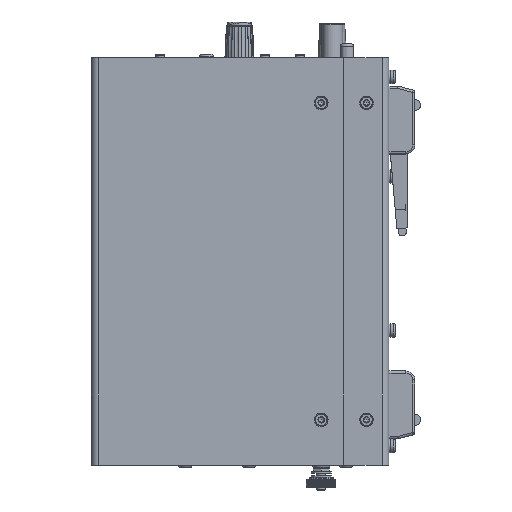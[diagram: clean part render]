
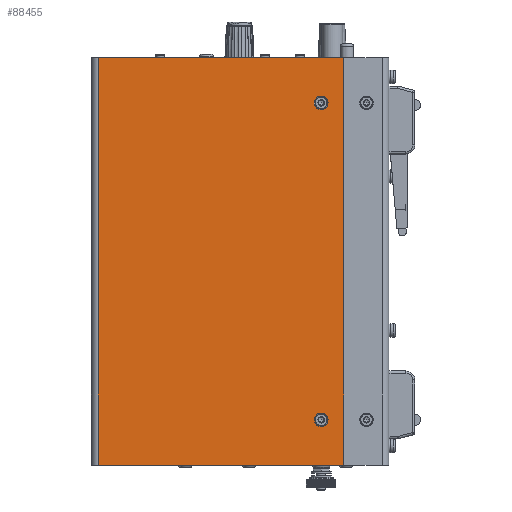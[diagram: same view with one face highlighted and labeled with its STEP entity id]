
A CAD part, left-side view. The second image highlights one B-rep face of the part: STEP entity #88455.
In plain terms, the highlighted planar face has unit normal (-1, 0, 0).
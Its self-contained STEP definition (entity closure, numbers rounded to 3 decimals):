
#4195=FACE_BOUND('',#15630,.T.);
#4196=FACE_BOUND('',#15631,.T.);
#6087=PLANE('',#95507);
#10502=FACE_OUTER_BOUND('',#15629,.T.);
#15629=EDGE_LOOP('',(#69407,#69408,#69409,#69410));
#15630=EDGE_LOOP('',(#69411,#69412));
#15631=EDGE_LOOP('',(#69413,#69414));
#20531=CIRCLE('',#95495,3.);
#20532=CIRCLE('',#95496,3.);
#20533=CIRCLE('',#95498,3.);
#20534=CIRCLE('',#95499,3.);
#24789=LINE('',#155420,#31361);
#24813=LINE('',#155500,#31385);
#24815=LINE('',#155505,#31387);
#24816=LINE('',#155506,#31388);
#31361=VECTOR('',#111520,10.);
#31385=VECTOR('',#111606,10.);
#31387=VECTOR('',#111612,10.);
#31388=VECTOR('',#111613,10.);
#39558=VERTEX_POINT('',#155400);
#39567=VERTEX_POINT('',#155418);
#39586=VERTEX_POINT('',#155476);
#39587=VERTEX_POINT('',#155477);
#39588=VERTEX_POINT('',#155482);
#39589=VERTEX_POINT('',#155483);
#39592=VERTEX_POINT('',#155498);
#39593=VERTEX_POINT('',#155504);
#50224=EDGE_CURVE('',#39558,#39567,#24789,.T.);
#50252=EDGE_CURVE('',#39586,#39587,#20531,.T.);
#50253=EDGE_CURVE('',#39587,#39586,#20532,.T.);
#50255=EDGE_CURVE('',#39588,#39589,#20533,.T.);
#50256=EDGE_CURVE('',#39589,#39588,#20534,.T.);
#50264=EDGE_CURVE('',#39567,#39592,#24813,.T.);
#50266=EDGE_CURVE('',#39593,#39558,#24815,.T.);
#50267=EDGE_CURVE('',#39592,#39593,#24816,.T.);
#69407=ORIENTED_EDGE('',*,*,#50266,.T.);
#69408=ORIENTED_EDGE('',*,*,#50224,.T.);
#69409=ORIENTED_EDGE('',*,*,#50264,.T.);
#69410=ORIENTED_EDGE('',*,*,#50267,.T.);
#69411=ORIENTED_EDGE('',*,*,#50252,.T.);
#69412=ORIENTED_EDGE('',*,*,#50253,.T.);
#69413=ORIENTED_EDGE('',*,*,#50255,.T.);
#69414=ORIENTED_EDGE('',*,*,#50256,.T.);
#88455=ADVANCED_FACE('',(#10502,#4195,#4196),#6087,.T.);
#95495=AXIS2_PLACEMENT_3D('',#155478,#111578,#111579);
#95496=AXIS2_PLACEMENT_3D('',#155479,#111580,#111581);
#95498=AXIS2_PLACEMENT_3D('',#155484,#111585,#111586);
#95499=AXIS2_PLACEMENT_3D('',#155485,#111587,#111588);
#95507=AXIS2_PLACEMENT_3D('',#155503,#111610,#111611);
#111520=DIRECTION('',(0.,1.,0.));
#111578=DIRECTION('center_axis',(1.,0.,0.));
#111579=DIRECTION('ref_axis',(0.,0.,
1.));
#111580=DIRECTION('center_axis',(1.,0.,0.));
#111581=DIRECTION('ref_axis',(0.,0.,
1.));
#111585=DIRECTION('center_axis',(1.,0.,0.));
#111586=DIRECTION('ref_axis',(0.,0.,
1.));
#111587=DIRECTION('center_axis',(1.,0.,0.));
#111588=DIRECTION('ref_axis',(0.,0.,
1.));
#111606=DIRECTION('',(0.,0.,-1.));
#111610=DIRECTION('center_axis',(-1.,0.,0.));
#111611=DIRECTION('ref_axis',(0.,0.,
-1.));
#111612=DIRECTION('',(0.,0.,1.));
#111613=DIRECTION('',(0.,-1.,0.));
#155400=CARTESIAN_POINT('',(-111.,-45.75,3.5));
#155418=CARTESIAN_POINT('',(-111.,62.65,3.5));
#155420=CARTESIAN_POINT('',(-111.,-45.85,3.5));
#155476=CARTESIAN_POINT('',(-111.,-35.85,-13.5));
#155477=CARTESIAN_POINT('',(-111.,-35.85,-19.5));
#155478=CARTESIAN_POINT('Origin',(-111.,-35.85,-16.5));
#155479=CARTESIAN_POINT('Origin',(-111.,-35.85,-16.5));
#155482=CARTESIAN_POINT('',(-111.,-35.85,-153.5));
#155483=CARTESIAN_POINT('',(-111.,-35.85,-159.5));
#155484=CARTESIAN_POINT('Origin',(-111.,-35.85,-156.5));
#155485=CARTESIAN_POINT('Origin',(-111.,-35.85,-156.5));
#155498=CARTESIAN_POINT('',(-111.,62.65,-176.5));
#155500=CARTESIAN_POINT('',(-111.,62.65,-41.5));
#155503=CARTESIAN_POINT('Origin',(-111.,65.65,3.5));
#155504=CARTESIAN_POINT('',(-111.,-45.75,-176.5));
#155505=CARTESIAN_POINT('',(-111.,-45.75,-176.5));
#155506=CARTESIAN_POINT('',(-111.,-45.85,-176.5));
